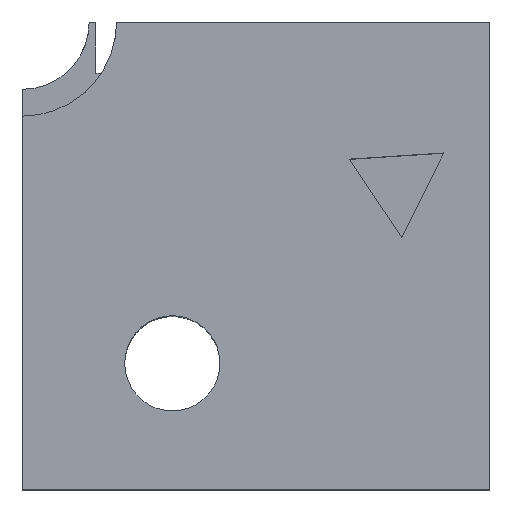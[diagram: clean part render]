
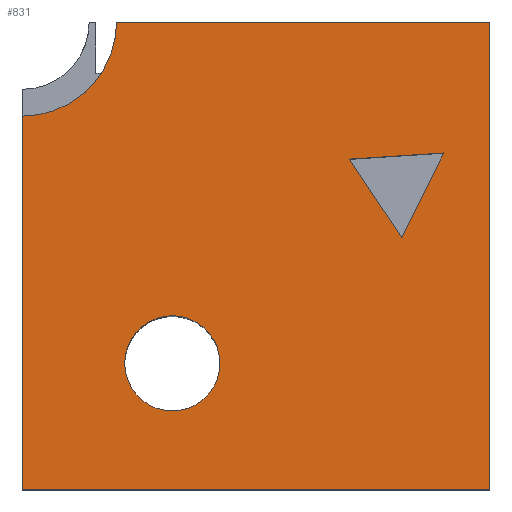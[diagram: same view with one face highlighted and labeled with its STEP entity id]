
A CAD part, top view. The second image highlights one B-rep face of the part: STEP entity #831.
In plain terms, the highlighted planar face has unit normal (0, 0, 1).
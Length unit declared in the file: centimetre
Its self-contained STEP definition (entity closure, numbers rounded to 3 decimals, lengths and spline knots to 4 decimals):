
#19 = DIRECTION ( 'NONE',  ( -0.998, -0.065, 0. ) ) ;
#29 = DIRECTION ( 'NONE',  ( 0., 1., 0. ) ) ;
#43 = CARTESIAN_POINT ( 'NONE',  ( 901.6106, 719.7029, 1000. ) ) ;
#50 = CARTESIAN_POINT ( 'NONE',  ( 1000., 1000., 1000. ) ) ;
#51 = DIRECTION ( 'NONE',  ( 0., 0., 1. ) ) ;
#67 = VERTEX_POINT ( 'NONE', #247 ) ;
#101 = CARTESIAN_POINT ( 'NONE',  ( 812.1568, 538.3321, 1000. ) ) ;
#106 = CARTESIAN_POINT ( 'NONE',  ( 0., 1000., 1000. ) ) ;
#135 = CARTESIAN_POINT ( 'NONE',  ( 0., 1000., 1000. ) ) ;
#145 = DIRECTION ( 'NONE',  ( 0., 0., -1. ) ) ;
#190 = AXIS2_PLACEMENT_3D ( 'NONE', #106, #1215, #464 ) ;
#207 = VERTEX_POINT ( 'NONE', #101 ) ;
#218 = CIRCLE ( 'NONE', #1095, 101.9166 ) ;
#247 = CARTESIAN_POINT ( 'NONE',  ( 1000., 0., 1000. ) ) ;
#269 = LINE ( 'NONE', #50, #583 ) ;
#293 = VECTOR ( 'NONE', #19, 100. ) ;
#303 = EDGE_CURVE ( 'NONE', #1398, #67, #490, .T. ) ;
#329 = EDGE_CURVE ( 'NONE', #67, #927, #269, .T. ) ;
#333 = AXIS2_PLACEMENT_3D ( 'NONE', #737, #1392, #417 ) ;
#359 = VERTEX_POINT ( 'NONE', #43 ) ;
#370 = DIRECTION ( 'NONE',  ( -1., 0., 0. ) ) ;
#384 = CARTESIAN_POINT ( 'NONE',  ( 812.1568, 538.3321, 1000. ) ) ;
#407 = VERTEX_POINT ( 'NONE', #1305 ) ;
#417 = DIRECTION ( 'NONE',  ( -1., 0., 0. ) ) ;
#454 = CARTESIAN_POINT ( 'NONE',  ( 218.9481, 269.5017, 1000. ) ) ;
#464 = DIRECTION ( 'NONE',  ( 1., 0., 0. ) ) ;
#475 = DIRECTION ( 'NONE',  ( -1., 0., 0. ) ) ;
#490 = LINE ( 'NONE', #822, #1044 ) ;
#491 = FACE_BOUND ( 'NONE', #1285, .T. ) ;
#499 = DIRECTION ( 'NONE',  ( 1., 0., 0. ) ) ;
#539 = VECTOR ( 'NONE', #553, 100. ) ;
#553 = DIRECTION ( 'NONE',  ( 0., -1., 0. ) ) ;
#581 = FACE_OUTER_BOUND ( 'NONE', #1342, .T. ) ;
#583 = VECTOR ( 'NONE', #29, 100. ) ;
#588 = CARTESIAN_POINT ( 'NONE',  ( 0., 0., 1000. ) ) ;
#599 = CARTESIAN_POINT ( 'NONE',  ( 0., 0., 1000. ) ) ;
#611 = AXIS2_PLACEMENT_3D ( 'NONE', #588, #51, #499 ) ;
#616 = VERTEX_POINT ( 'NONE', #775 ) ;
#618 = ORIENTED_EDGE ( 'NONE', *, *, #329, .T. ) ;
#660 = CARTESIAN_POINT ( 'NONE',  ( 901.6106, 719.7029, 1000. ) ) ;
#664 = EDGE_CURVE ( 'NONE', #407, #911, #938, .T. ) ;
#671 = VECTOR ( 'NONE', #1109, 100. ) ;
#675 = VECTOR ( 'NONE', #475, 100. ) ;
#701 = FACE_BOUND ( 'NONE', #1141, .T. ) ;
#707 = CARTESIAN_POINT ( 'NONE',  ( 1000., 1000., 1000. ) ) ;
#713 = DIRECTION ( 'NONE',  ( 1., 0., 0. ) ) ;
#715 = EDGE_CURVE ( 'NONE', #1240, #207, #789, .T. ) ;
#731 = ORIENTED_EDGE ( 'NONE', *, *, #1315, .F. ) ;
#737 = CARTESIAN_POINT ( 'NONE',  ( 320.8648, 269.5017, 1000. ) ) ;
#764 = LINE ( 'NONE', #660, #293 ) ;
#771 = CIRCLE ( 'NONE', #333, 101.9166 ) ;
#775 = CARTESIAN_POINT ( 'NONE',  ( 422.7814, 269.5017, 1000. ) ) ;
#789 = LINE ( 'NONE', #985, #671 ) ;
#790 = EDGE_CURVE ( 'NONE', #407, #1398, #1126, .T. ) ;
#798 = ORIENTED_EDGE ( 'NONE', *, *, #1412, .T. ) ;
#821 = ORIENTED_EDGE ( 'NONE', *, *, #790, .T. ) ;
#822 = CARTESIAN_POINT ( 'NONE',  ( 0., 0., 1000. ) ) ;
#831 = ADVANCED_FACE ( 'NONE', ( #491, #581, #701 ), #1023, .T. ) ;
#839 = VECTOR ( 'NONE', #1378, 100. ) ;
#911 = VERTEX_POINT ( 'NONE', #1375 ) ;
#916 = LINE ( 'NONE', #1025, #675 ) ;
#923 = CARTESIAN_POINT ( 'NONE',  ( 320.8648, 269.5017, 1000. ) ) ;
#927 = VERTEX_POINT ( 'NONE', #707 ) ;
#938 = CIRCLE ( 'NONE', #190, 201.5051 ) ;
#973 = ORIENTED_EDGE ( 'NONE', *, *, #1229, .F. ) ;
#985 = CARTESIAN_POINT ( 'NONE',  ( 699.812, 706.4868, 1000. ) ) ;
#1019 = LINE ( 'NONE', #384, #839 ) ;
#1023 = PLANE ( 'NONE',  #611 ) ;
#1025 = CARTESIAN_POINT ( 'NONE',  ( 0., 1000., 1000. ) ) ;
#1044 = VECTOR ( 'NONE', #713, 100. ) ;
#1095 = AXIS2_PLACEMENT_3D ( 'NONE', #923, #145, #370 ) ;
#1109 = DIRECTION ( 'NONE',  ( 0.556, -0.831, 0. ) ) ;
#1126 = LINE ( 'NONE', #135, #539 ) ;
#1141 = EDGE_LOOP ( 'NONE', ( #798, #1160 ) ) ;
#1150 = ORIENTED_EDGE ( 'NONE', *, *, #715, .F. ) ;
#1160 = ORIENTED_EDGE ( 'NONE', *, *, #1337, .T. ) ;
#1215 = DIRECTION ( 'NONE',  ( 0., 0., 1. ) ) ;
#1225 = ORIENTED_EDGE ( 'NONE', *, *, #664, .F. ) ;
#1229 = EDGE_CURVE ( 'NONE', #359, #1240, #764, .T. ) ;
#1230 = VERTEX_POINT ( 'NONE', #454 ) ;
#1240 = VERTEX_POINT ( 'NONE', #1320 ) ;
#1278 = ORIENTED_EDGE ( 'NONE', *, *, #1344, .T. ) ;
#1284 = ORIENTED_EDGE ( 'NONE', *, *, #303, .T. ) ;
#1285 = EDGE_LOOP ( 'NONE', ( #731, #1150, #973 ) ) ;
#1305 = CARTESIAN_POINT ( 'NONE',  ( 0., 798.4949, 1000. ) ) ;
#1315 = EDGE_CURVE ( 'NONE', #207, #359, #1019, .T. ) ;
#1320 = CARTESIAN_POINT ( 'NONE',  ( 699.812, 706.4868, 1000. ) ) ;
#1337 = EDGE_CURVE ( 'NONE', #616, #1230, #218, .T. ) ;
#1342 = EDGE_LOOP ( 'NONE', ( #1225, #821, #1284, #618, #1278 ) ) ;
#1344 = EDGE_CURVE ( 'NONE', #927, #911, #916, .T. ) ;
#1375 = CARTESIAN_POINT ( 'NONE',  ( 201.5051, 1000., 1000. ) ) ;
#1378 = DIRECTION ( 'NONE',  ( 0.442, 0.897, 0. ) ) ;
#1392 = DIRECTION ( 'NONE',  ( 0., 0., -1. ) ) ;
#1398 = VERTEX_POINT ( 'NONE', #599 ) ;
#1412 = EDGE_CURVE ( 'NONE', #1230, #616, #771, .T. ) ;
